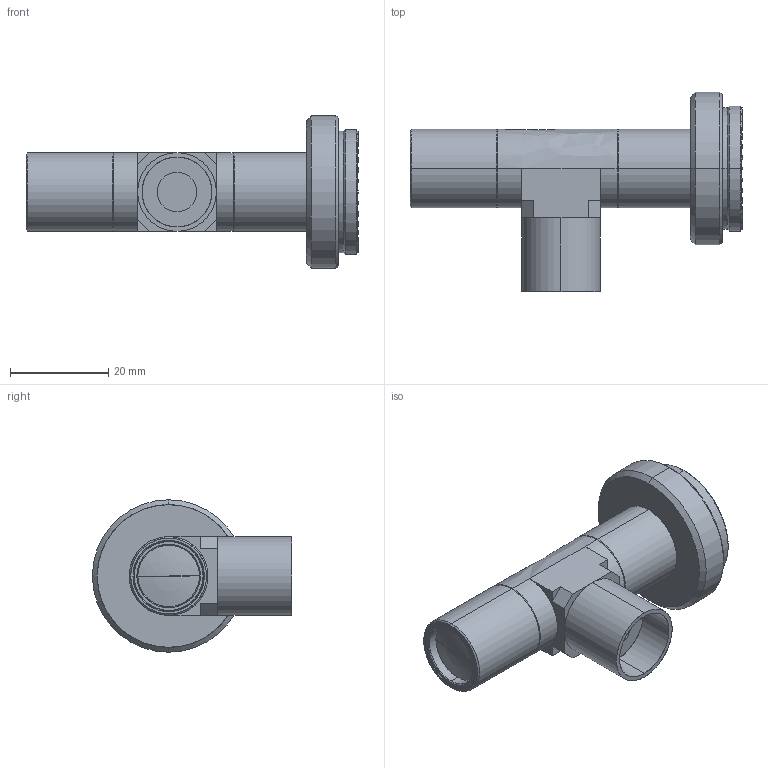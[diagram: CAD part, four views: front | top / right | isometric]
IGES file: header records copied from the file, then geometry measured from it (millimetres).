
Start section: SolidWorks IGES file using analytic representation for surfaces
Bounding box: 67.5 x 40.5 x 31 mm (x, y, z)
Surface area: 7262.9 mm2 (no closed solid volume)
Topology: 0 solids, 0 shells, 99 faces, 1236 edges, 1234 vertices
Faces by surface type: revolution 71, bspline 28
